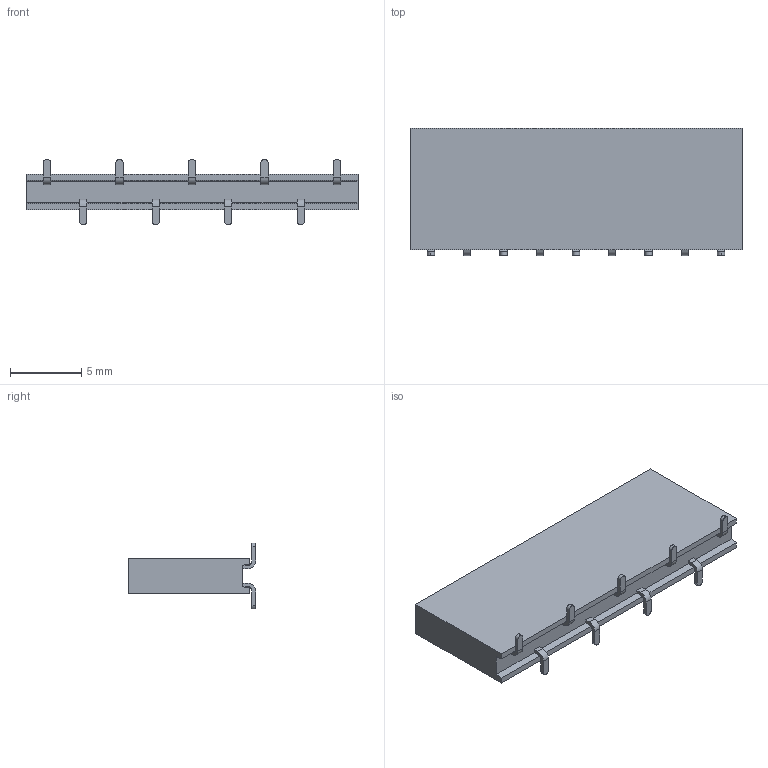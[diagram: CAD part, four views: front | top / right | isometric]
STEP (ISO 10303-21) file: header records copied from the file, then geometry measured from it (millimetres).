
FILE_DESCRIPTION (( 'STEP AP203' ), '1' );
FILE_NAME ('PM254-1-09-S-8.5-XX-1(L8.9) (2.54等齬 齬譫 泂え 呿詢8.5-HCTL).STEP', '2026-03-05T08:32:17', ( '' ), ( '' ), 'SwSTEP 2.0', 'SolidWorks 2025', '' );
FILE_SCHEMA (( 'CONFIG_CONTROL_DESIGN' ));
Length unit declared in the file: millimetre
Products named in the file (1): PM254-1-09-S-8.5-XX-1(L8.9) (2.54单排 排母 贴片 塑高8.5-HCTL)
Bounding box: 23.26 x 8.9 x 4.6 mm (x, y, z)
Volume: 466.7 mm3; surface area: 645.4 mm2
Topology: 1 solids, 1 shells, 174 faces, 435 edges, 272 vertices
Faces by surface type: plane 145, cylinder 29
Entity records: 5142 total; most frequent: CARTESIAN_POINT 882, ORIENTED_EDGE 870, DIRECTION 843, EDGE_CURVE 435, LINE 377, VECTOR 377, VERTEX_POINT 272, AXIS2_PLACEMENT_3D 233
